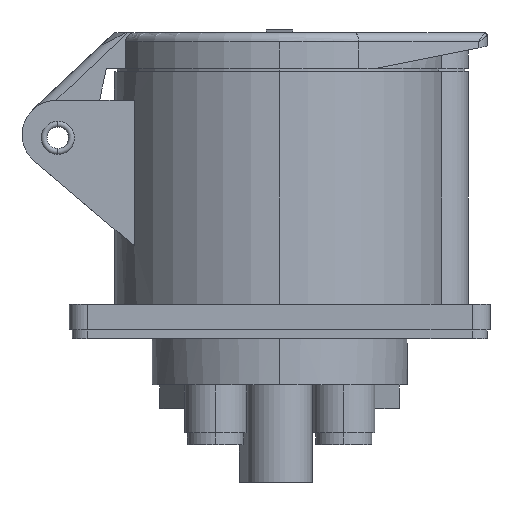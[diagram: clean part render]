
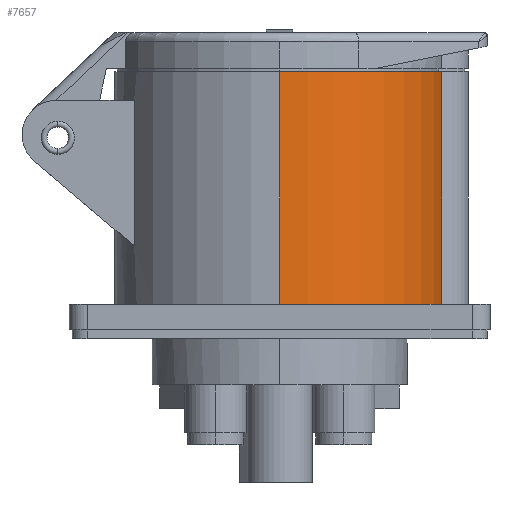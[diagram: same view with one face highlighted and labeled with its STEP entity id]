
A CAD part, left-side view. The second image highlights one B-rep face of the part: STEP entity #7657.
In plain terms, the highlighted cylindrical face has radius 27.675 mm (diameter 55.35 mm), a partial arc.
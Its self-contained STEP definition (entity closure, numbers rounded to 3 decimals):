
#2480 = CARTESIAN_POINT ( 'NONE',  ( 0., 0., 43.3 ) ) ;
#2481 = DIRECTION ( 'NONE',  ( 0., 0., -1. ) ) ;
#2482 = DIRECTION ( 'NONE',  ( -1., 0., 0. ) ) ;
#6280 = CIRCLE ( 'NONE', #12181, 27.675 ) ;
#6284 = CIRCLE ( 'NONE', #12246, 27.675 ) ;
#6629 = CARTESIAN_POINT ( 'NONE',  ( -27.675, 0., 43.3 ) ) ;
#6661 = CARTESIAN_POINT ( 'NONE',  ( -5.5, -27.123, 4.3 ) ) ;
#6867 = CARTESIAN_POINT ( 'NONE',  ( -27.675, 0., 4.3 ) ) ;
#6904 = CARTESIAN_POINT ( 'NONE',  ( -5.5, -27.123, 43.3 ) ) ;
#7508 = EDGE_CURVE ( 'NONE', #9173, #11306, #10828, .T. ) ;
#7509 = EDGE_CURVE ( 'NONE', #11306, #10013, #6280, .T. ) ;
#7516 = EDGE_CURVE ( 'NONE', #11343, #10013, #10852, .T. ) ;
#7517 = EDGE_CURVE ( 'NONE', #9173, #11343, #6284, .T. ) ;
#7657 = ADVANCED_FACE ( 'NONE', ( #12214 ), #12334, .T. ) ;
#8115 = ORIENTED_EDGE ( 'NONE', *, *, #7516, .F. ) ;
#8117 = ORIENTED_EDGE ( 'NONE', *, *, #7508, .T. ) ;
#8118 = ORIENTED_EDGE ( 'NONE', *, *, #7509, .T. ) ;
#8119 = ORIENTED_EDGE ( 'NONE', *, *, #7517, .F. ) ;
#9173 = VERTEX_POINT ( 'NONE', #6629 ) ;
#9453 = EDGE_LOOP ( 'NONE', ( #8119, #8117, #8118, #8115 ) ) ;
#10013 = VERTEX_POINT ( 'NONE', #6661 ) ;
#10827 = CARTESIAN_POINT ( 'NONE',  ( 0., 0., 4.3 ) ) ;
#10828 = LINE ( 'NONE', #10829, #12245 ) ;
#10829 = CARTESIAN_POINT ( 'NONE',  ( -27.675, 0., 43.3 ) ) ;
#10830 = DIRECTION ( 'NONE',  ( 0., 0., -1. ) ) ;
#10831 = DIRECTION ( 'NONE',  ( 0., 0., 1. ) ) ;
#10832 = DIRECTION ( 'NONE',  ( 1., 0., 0. ) ) ;
#10851 = CARTESIAN_POINT ( 'NONE',  ( 0., 0., 43.3 ) ) ;
#10852 = LINE ( 'NONE', #10853, #12376 ) ;
#10853 = CARTESIAN_POINT ( 'NONE',  ( -5.5, -27.123, 43.3 ) ) ;
#10854 = DIRECTION ( 'NONE',  ( 0., 0., -1. ) ) ;
#10855 = DIRECTION ( 'NONE',  ( 0., 0., 1. ) ) ;
#10856 = DIRECTION ( 'NONE',  ( 1., 0., 0. ) ) ;
#11306 = VERTEX_POINT ( 'NONE', #6867 ) ;
#11343 = VERTEX_POINT ( 'NONE', #6904 ) ;
#12181 = AXIS2_PLACEMENT_3D ( 'NONE', #10827, #10831, #10832 ) ;
#12194 = AXIS2_PLACEMENT_3D ( 'NONE', #2480, #2481, #2482 ) ;
#12214 = FACE_OUTER_BOUND ( 'NONE', #9453, .T. ) ;
#12245 = VECTOR ( 'NONE', #10830, 1000. ) ;
#12246 = AXIS2_PLACEMENT_3D ( 'NONE', #10851, #10855, #10856 ) ;
#12334 = CYLINDRICAL_SURFACE ( 'NONE', #12194, 27.675 ) ;
#12376 = VECTOR ( 'NONE', #10854, 1000. ) ;
